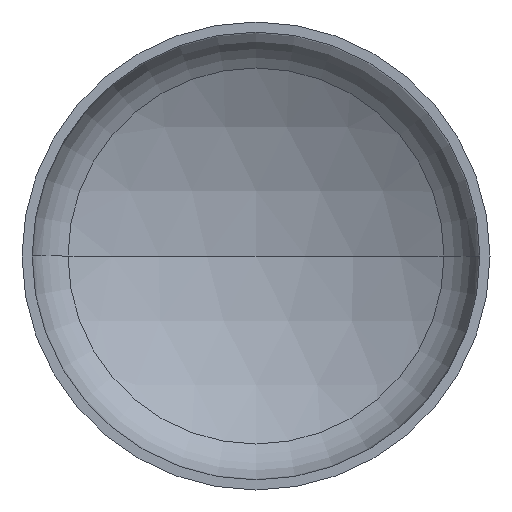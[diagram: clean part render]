
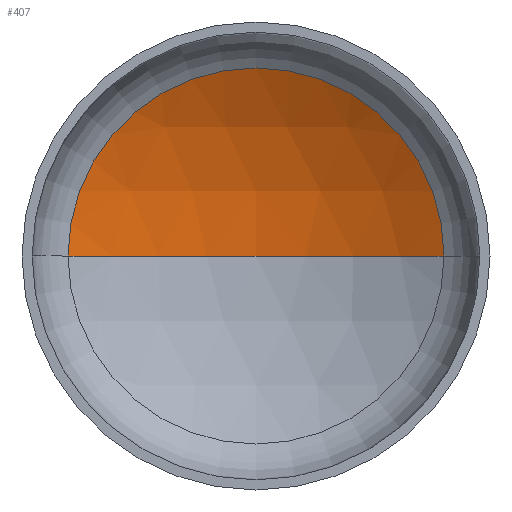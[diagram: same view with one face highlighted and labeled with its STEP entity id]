
A CAD part, front view. The second image highlights one B-rep face of the part: STEP entity #407.
In plain terms, the highlighted spherical face has radius 4000 mm.
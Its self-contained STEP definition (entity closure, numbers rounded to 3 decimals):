
#8 = ORIENTED_EDGE ( 'NONE', *, *, #339, .T. ) ;
#9 = VERTEX_POINT ( 'NONE', #278 ) ;
#17 = AXIS2_PLACEMENT_3D ( 'NONE', #301, #157, #161 ) ;
#20 = AXIS2_PLACEMENT_3D ( 'NONE', #171, #174, #331 ) ;
#21 = EDGE_LOOP ( 'NONE', ( #86, #8, #67 ) ) ;
#67 = ORIENTED_EDGE ( 'NONE', *, *, #338, .T. ) ;
#81 = VERTEX_POINT ( 'NONE', #225 ) ;
#86 = ORIENTED_EDGE ( 'NONE', *, *, #379, .F. ) ;
#116 = VERTEX_POINT ( 'NONE', #286 ) ;
#150 = AXIS2_PLACEMENT_3D ( 'NONE', #214, #191, #190 ) ;
#157 = DIRECTION ( 'NONE',  ( 0., 0., -1. ) ) ;
#161 = DIRECTION ( 'NONE',  ( -1., 0., 0. ) ) ;
#171 = CARTESIAN_POINT ( 'NONE',  ( 0., 740.873, 0. ) ) ;
#174 = DIRECTION ( 'NONE',  ( 0., -1., 0. ) ) ;
#190 = DIRECTION ( 'NONE',  ( -1., 0., 0. ) ) ;
#191 = DIRECTION ( 'NONE',  ( 0., 0., -1. ) ) ;
#214 = CARTESIAN_POINT ( 'NONE',  ( 0., -2718.209, 0. ) ) ;
#215 = DIRECTION ( 'NONE',  ( 1., 0., 0. ) ) ;
#224 = CIRCLE ( 'NONE', #397, 4000. ) ;
#225 = CARTESIAN_POINT ( 'NONE',  ( 0., 1281.791, 0. ) ) ;
#261 = CARTESIAN_POINT ( 'NONE',  ( 0., -2718.209, 0. ) ) ;
#270 = FACE_OUTER_BOUND ( 'NONE', #21, .T. ) ;
#278 = CARTESIAN_POINT ( 'NONE',  ( -2008.669, 740.873, 0. ) ) ;
#286 = CARTESIAN_POINT ( 'NONE',  ( 2008.669, 740.873, 0. ) ) ;
#294 = CIRCLE ( 'NONE', #17, 4000. ) ;
#301 = CARTESIAN_POINT ( 'NONE',  ( 0., -2718.209, 0. ) ) ;
#331 = DIRECTION ( 'NONE',  ( 1., 0., 0. ) ) ;
#338 = EDGE_CURVE ( 'NONE', #116, #9, #370, .T. ) ;
#339 = EDGE_CURVE ( 'NONE', #81, #116, #294, .T. ) ;
#363 = DIRECTION ( 'NONE',  ( 0., 0., 1. ) ) ;
#370 = CIRCLE ( 'NONE', #20, 2008.669 ) ;
#379 = EDGE_CURVE ( 'NONE', #81, #9, #224, .T. ) ;
#397 = AXIS2_PLACEMENT_3D ( 'NONE', #261, #363, #215 ) ;
#400 = SPHERICAL_SURFACE ( 'NONE', #150, 4000. ) ;
#407 = ADVANCED_FACE ( 'NONE', ( #270 ), #400, .F. ) ;
